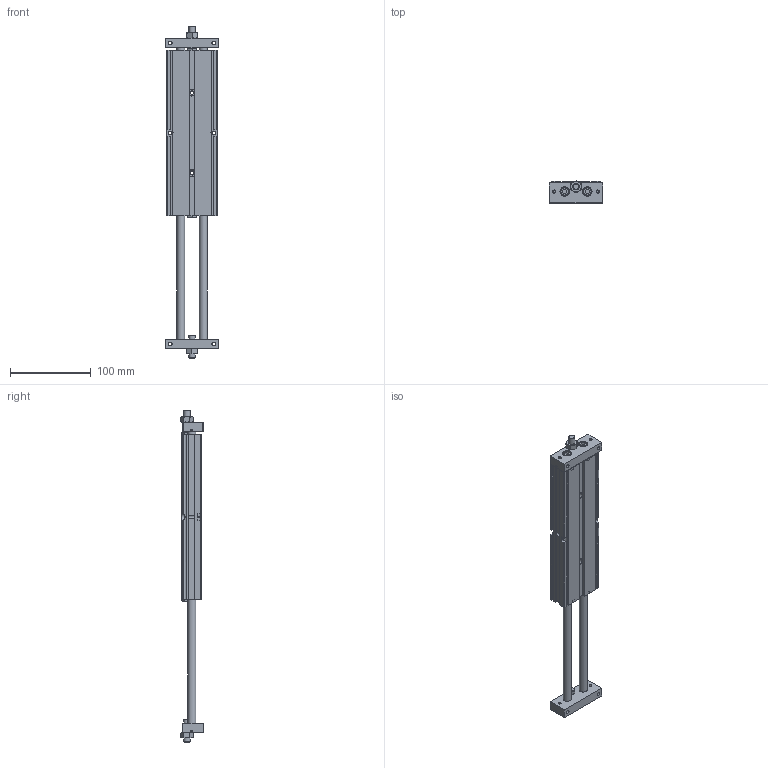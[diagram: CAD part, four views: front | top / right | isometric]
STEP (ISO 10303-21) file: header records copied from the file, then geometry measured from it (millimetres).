
FILE_DESCRIPTION((''),'2;1');
FILE_NAME('I:\3D電子目錄\氣缸\STU\STU\STU20\STU20x150.stp','2007-10-01T10:37:32',('Administrator'),(''),'Autodesk Inventor 11','Autodesk Inventor 11','');
FILE_SCHEMA(('AUTOMOTIVE_DESIGN { 1 0 10303 214 1 1 1 1 }'));
Length unit declared in the file: millimetre
Products named in the file (1): STU20
Bounding box: 66 x 27.51 x 411.5 mm (x, y, z)
Volume: 342011.5 mm3; surface area: 79912.6 mm2
Topology: 1 solids, 1 shells, 345 faces, 855 edges, 543 vertices
Faces by surface type: plane 166, cone 75, bspline 71, cylinder 29, torus 4
Full cylindrical faces by diameter (mm): 2.459 x2, 8 x6, 10 x6, 11 x4, 22 x2, 23.2 x2
Entity records: 10978 total; most frequent: CARTESIAN_POINT 3643, ORIENTED_EDGE 1470, DIRECTION 1388, EDGE_CURVE 735, EDGE_LOOP 520, VERTEX_POINT 519, AXIS2_PLACEMENT_3D 510, VECTOR 368
